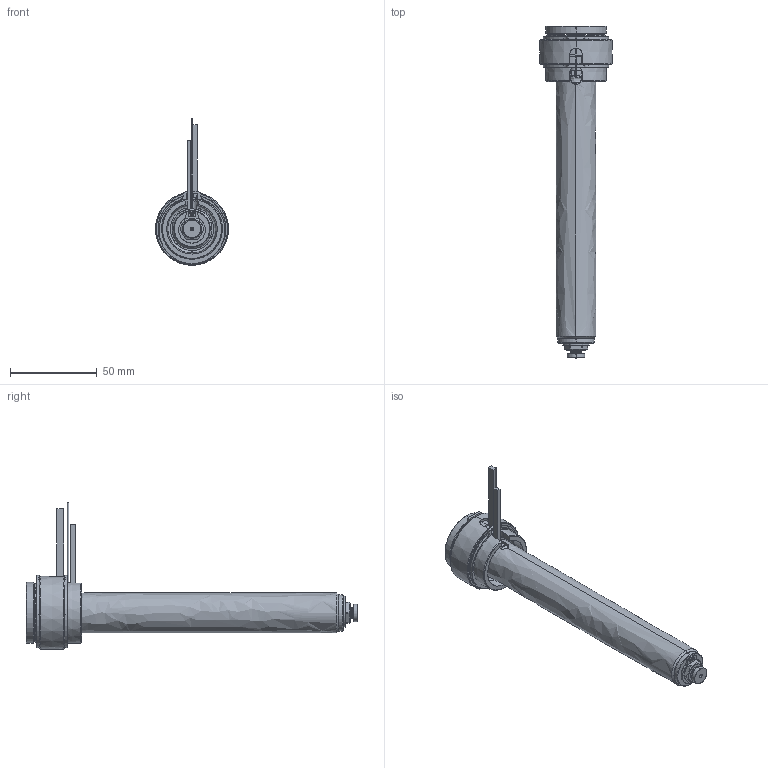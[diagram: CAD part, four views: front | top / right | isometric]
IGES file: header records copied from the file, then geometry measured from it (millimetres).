
Start section: SolidWorks IGES file using analytic representation for surfaces
Global section: file name: C:\Users\luca.EMPAD\Desktop\TEM\UGBE3504-S-A-3 [Ød-1.5 P-0 ØC-7.0].IGS; native system: SolidWorks 2012; preprocessor: SolidWorks 2012; author: luca; date: 120330.140616; units: millimetre
Bounding box: 42 x 191 x 84.4 mm (x, y, z)
Surface area: 35969.3 mm2 (no closed solid volume)
Topology: 0 solids, 0 shells, 190 faces, 3514 edges, 3514 vertices
Faces by surface type: revolution 122, bspline 68
